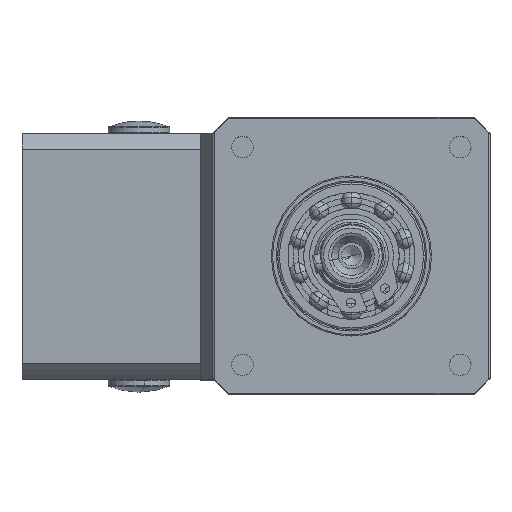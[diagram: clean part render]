
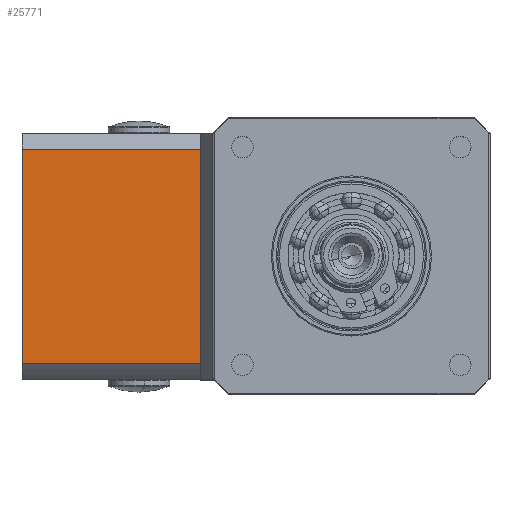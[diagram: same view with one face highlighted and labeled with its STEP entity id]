
A CAD part, top view. The second image highlights one B-rep face of the part: STEP entity #25771.
In plain terms, the highlighted planar face has unit normal (0, 0, 1).
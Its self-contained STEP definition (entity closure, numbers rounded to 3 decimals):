
#270 = LINE ( 'NONE', #42133, #13553 ) ;
#458 = ORIENTED_EDGE ( 'NONE', *, *, #10723, .F. ) ;
#1867 = VERTEX_POINT ( 'NONE', #25184 ) ;
#3409 = CARTESIAN_POINT ( 'NONE',  ( -29.31, -6.138, 2.25 ) ) ;
#4005 = FACE_OUTER_BOUND ( 'NONE', #21114, .T. ) ;
#5275 = LINE ( 'NONE', #3409, #24661 ) ;
#5289 = VECTOR ( 'NONE', #17157, 1000. ) ;
#6515 = PLANE ( 'NONE',  #27626 ) ;
#6673 = ORIENTED_EDGE ( 'NONE', *, *, #41480, .T. ) ;
#6720 = CARTESIAN_POINT ( 'NONE',  ( -29.31, 31.247, 2.25 ) ) ;
#10723 = EDGE_CURVE ( 'NONE', #13959, #37004, #270, .T. ) ;
#10899 = DIRECTION ( 'NONE',  ( 0., 0., -1. ) ) ;
#11134 = VERTEX_POINT ( 'NONE', #41728 ) ;
#12086 = CARTESIAN_POINT ( 'NONE',  ( -29.31, -3.523, 2.25 ) ) ;
#12581 = DIRECTION ( 'NONE',  ( -1., 0., 0. ) ) ;
#13156 = LINE ( 'NONE', #21367, #5289 ) ;
#13553 = VECTOR ( 'NONE', #12581, 1000. ) ;
#13616 = ORIENTED_EDGE ( 'NONE', *, *, #16993, .T. ) ;
#13959 = VERTEX_POINT ( 'NONE', #12086 ) ;
#15539 = EDGE_CURVE ( 'NONE', #37004, #1867, #13156, .T. ) ;
#15781 = CARTESIAN_POINT ( 'NONE',  ( -58.31, -3.523, 2.25 ) ) ;
#16993 = EDGE_CURVE ( 'NONE', #11134, #1867, #43235, .T. ) ;
#17157 = DIRECTION ( 'NONE',  ( 0., 1., 0. ) ) ;
#19657 = DIRECTION ( 'NONE',  ( 0., 1., 0. ) ) ;
#21114 = EDGE_LOOP ( 'NONE', ( #458, #6673, #13616, #25316 ) ) ;
#21367 = CARTESIAN_POINT ( 'NONE',  ( -58.31, -6.138, 2.25 ) ) ;
#24661 = VECTOR ( 'NONE', #19657, 1000. ) ;
#25184 = CARTESIAN_POINT ( 'NONE',  ( -58.31, 31.247, 2.25 ) ) ;
#25316 = ORIENTED_EDGE ( 'NONE', *, *, #15539, .F. ) ;
#25771 = ADVANCED_FACE ( 'NONE', ( #4005 ), #6515, .F. ) ;
#27626 = AXIS2_PLACEMENT_3D ( 'NONE', #37406, #10899, #29680 ) ;
#29680 = DIRECTION ( 'NONE',  ( -1., 0., 0. ) ) ;
#32980 = VECTOR ( 'NONE', #41494, 1000. ) ;
#37004 = VERTEX_POINT ( 'NONE', #15781 ) ;
#37406 = CARTESIAN_POINT ( 'NONE',  ( -58.31, -6.138, 2.25 ) ) ;
#41480 = EDGE_CURVE ( 'NONE', #13959, #11134, #5275, .T. ) ;
#41494 = DIRECTION ( 'NONE',  ( -1., 0., 0. ) ) ;
#41728 = CARTESIAN_POINT ( 'NONE',  ( -29.31, 31.247, 2.25 ) ) ;
#42133 = CARTESIAN_POINT ( 'NONE',  ( -29.31, -3.523, 2.25 ) ) ;
#43235 = LINE ( 'NONE', #6720, #32980 ) ;
